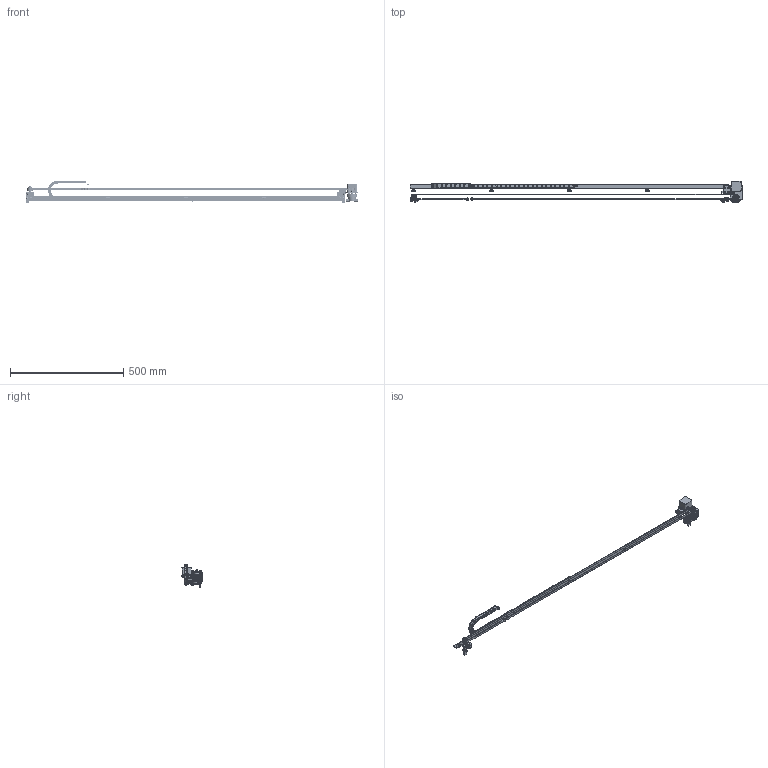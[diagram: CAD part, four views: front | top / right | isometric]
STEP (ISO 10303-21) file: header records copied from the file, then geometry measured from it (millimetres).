
FILE_DESCRIPTION(/* description */ (''),/* implementation_level */ '2;1');
FILE_NAME(/* name */ 'x-drive',/* time_stamp */ '2013-11-26T23:55:24+01:00',/* author */ (''),/* organization */ (''),/* preprocessor_version */ 'ST-DEVELOPER v14',/* originating_system */ '',/* authorisation */ '');
FILE_SCHEMA (('AUTOMOTIVE_DESIGN'));
Products named in the file (15): Document; screw ISO7380, button, M3x06; nut tslot, post, M5; screw DIN7991-like, sunk, M5x12; washer DIN125-like, form A, M5; screw DIN912-like, M5x12; screw DIN912-like, M5x20; washer Schnorr-like, lock, M3; screw DIN912-like, M3x10; nut DIN934-like, M3; ball bearing 5x19x6mm; screw DIN912-like, adhesive, M5x25; cable carrier link; cable carrier mount; washer DIN125, form A, M5
Assembly tree (134 placements, depth 2):
  Document
    screw ISO7380, button, M3x06  x3
    nut tslot, post, M5  x11
    screw DIN7991-like, sunk, M5x12  x5
    washer DIN125-like, form A, M5  x32
    screw DIN912-like, M5x12  x5
    screw DIN912-like, M5x20  x2
    washer Schnorr-like, lock, M3  x12
    screw DIN912-like, M3x10  x7
    nut DIN934-like, M3
    ball bearing 5x19x6mm  x2
    screw DIN912-like, adhesive, M5x25
    cable carrier link  x41
    cable carrier mount  x2
    washer DIN125, form A, M5  x10
Bounding box: 1469 x 93 x 100.05 mm (x, y, z)
Volume: 387826.8 mm3; surface area: 379215.3 mm2
Topology: 117 solids, 1637 shells, 4701 faces, 13426 edges, 10406 vertices
Faces by surface type: bspline 2567, plane 2134
Entity records: 171453 total; most frequent: CARTESIAN_POINT 91363, B_SPLINE_CURVE_WITH_KNOTS 11195, ORIENTED_EDGE 8608, PCURVE 8608, DEFINITIONAL_REPRESENTATION 8608, SURFACE_CURVE 6634, EDGE_CURVE 6634, VERTEX_POINT 5889
